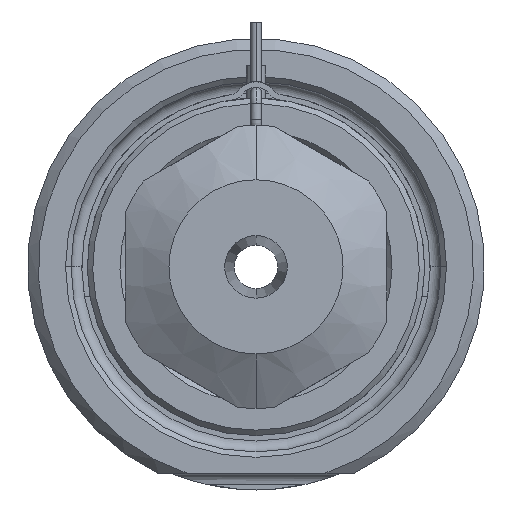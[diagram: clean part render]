
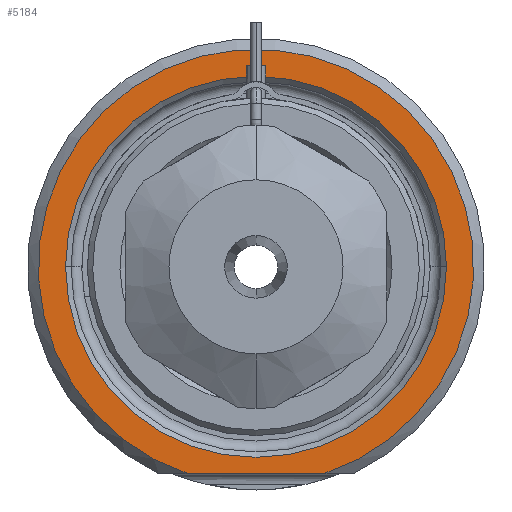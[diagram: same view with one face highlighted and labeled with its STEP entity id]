
A CAD part, front view. The second image highlights one B-rep face of the part: STEP entity #5184.
In plain terms, the highlighted planar face has unit normal (0, -1, 0).
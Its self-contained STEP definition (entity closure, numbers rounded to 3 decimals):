
#1572=DIRECTION('',(1.,0.,0.));
#1573=VECTOR('',#1572,12.49);
#1574=CARTESIAN_POINT('',(-6.245,0.,-19.));
#1575=LINE('',#1574,#1573);
#1576=CARTESIAN_POINT('',(0.,0.,0.));
#1577=DIRECTION('',(0.,1.,0.));
#1578=DIRECTION('',(-1.,0.,0.));
#1579=AXIS2_PLACEMENT_3D('',#1576,#1577,#1578);
#1581=CARTESIAN_POINT('',(0.,0.,0.));
#1582=DIRECTION('',(0.,1.,0.));
#1583=DIRECTION('',(1.,0.,0.));
#1584=AXIS2_PLACEMENT_3D('',#1581,#1582,#1583);
#1690=CARTESIAN_POINT('',(0.,0.,0.));
#1691=DIRECTION('',(0.,-1.,0.));
#1692=DIRECTION('',(0.312,0.,-0.95));
#1693=AXIS2_PLACEMENT_3D('',#1690,#1691,#1692);
#2784=CARTESIAN_POINT('',(-17.5,0.,0.));
#2785=CARTESIAN_POINT('',(17.5,0.,0.));
#2786=VERTEX_POINT('',#2784);
#2787=VERTEX_POINT('',#2785);
#2828=CARTESIAN_POINT('',(-6.245,0.,-19.));
#2829=CARTESIAN_POINT('',(6.245,0.,-19.));
#2830=VERTEX_POINT('',#2828);
#2831=VERTEX_POINT('',#2829);
#5168=CARTESIAN_POINT('',(0.,0.,0.));
#5169=DIRECTION('',(0.,-1.,0.));
#5170=DIRECTION('',(1.,0.,0.));
#5171=AXIS2_PLACEMENT_3D('',#5168,#5169,#5170);
#5172=PLANE('',#5171);
#5174=ORIENTED_EDGE('',*,*,#5173,.F.);
#5176=ORIENTED_EDGE('',*,*,#5175,.F.);
#5177=EDGE_LOOP('',(#5174,#5176));
#5178=FACE_OUTER_BOUND('',#5177,.F.);
#5179=ORIENTED_EDGE('',*,*,#5158,.F.);
#5181=ORIENTED_EDGE('',*,*,#5180,.F.);
#5182=EDGE_LOOP('',(#5179,#5181));
#5183=FACE_BOUND('',#5182,.F.);
#5184=ADVANCED_FACE('',(#5178,#5183),#5172,.T.);
#1580=CIRCLE('',#1579,17.5);
#1585=CIRCLE('',#1584,17.5);
#1694=CIRCLE('',#1693,20.);
#5158=EDGE_CURVE('',#2786,#2787,#1580,.T.);
#5173=EDGE_CURVE('',#2830,#2831,#1575,.T.);
#5175=EDGE_CURVE('',#2831,#2830,#1694,.T.);
#5180=EDGE_CURVE('',#2787,#2786,#1585,.T.);
